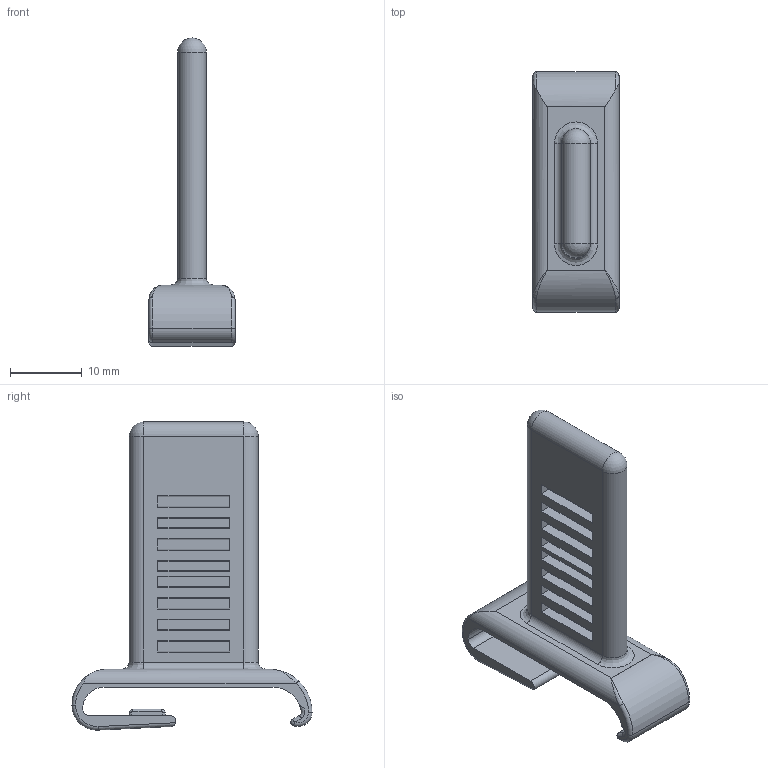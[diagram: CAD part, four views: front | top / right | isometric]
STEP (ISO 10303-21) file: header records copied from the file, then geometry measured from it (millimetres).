
FILE_DESCRIPTION((''),'2;1');
FILE_NAME('C:\Uebbing\PARAMETERKETTEN\KOLIBRI\Kol_50_095_2\Kol_50_095_2 PZ.stp','2011-11-02T13:30:06',('Uebbing'),(''),'Autodesk Inventor 10','Autodesk Inventor 10','');
FILE_SCHEMA(('AUTOMOTIVE_DESIGN { 1 0 10303 214 1 1 1 1 }'));
Length unit declared in the file: millimetre
Products named in the file (1): Kol_50_095_2 PZ 
Bounding box: 12 x 33.5 x 43 mm (x, y, z)
Volume: 3340.5 mm3; surface area: 3333.9 mm2
Topology: 1 solids, 1 shells, 146 faces, 348 edges, 220 vertices
Faces by surface type: plane 94, cylinder 30, torus 10, bspline 8, sphere 4
Entity records: 4839 total; most frequent: CARTESIAN_POINT 1429, DIRECTION 692, ORIENTED_EDGE 692, EDGE_CURVE 346, VECTOR 254, LINE 254, VERTEX_POINT 220, AXIS2_PLACEMENT_3D 219
